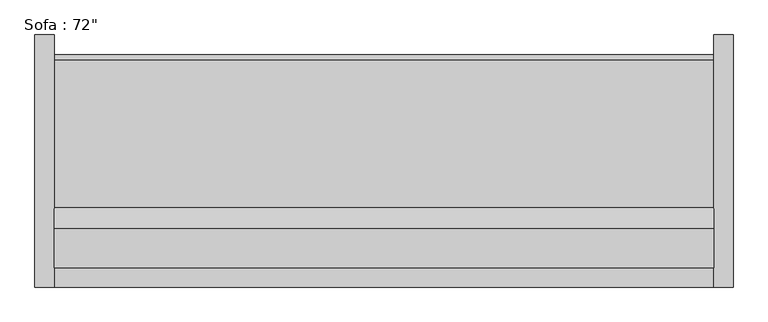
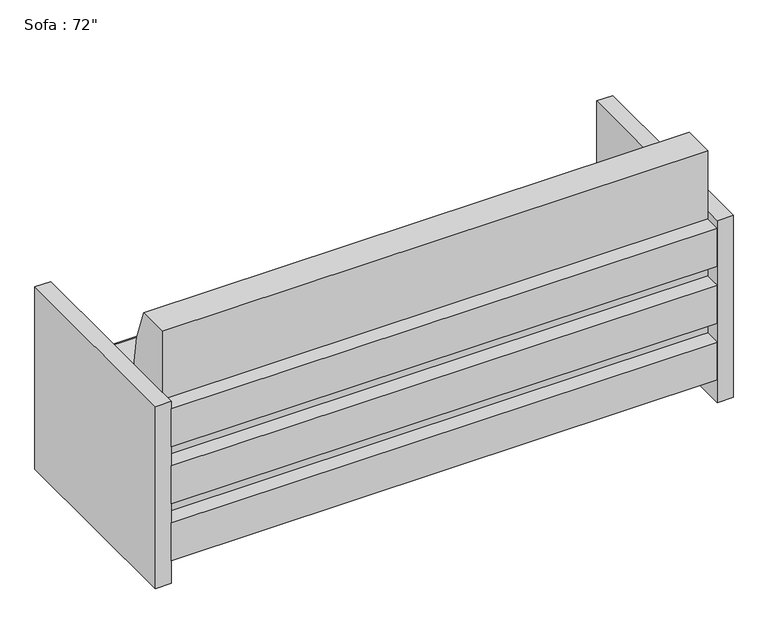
"""IFC4 building model written with IfcOpenShell, lengths in millimetres: furniture geometry."""

from ifc_helpers import new_model, si_unit, point, frame, frame_2d, origin, origin_with_axes, place, context, project, spatial, polyline, circle_curve, trimmed, segment, composite_curve, outline, extrude, source, transform, mapped, element, save


def furniture_dde8a40a(model_context):
    return source(origin(), model_context, "Body", "SweptSolid", [
        extrude(outline(polyline([(-793.2295082, -425.5540984), (933.9704918, -425.5540984), (933.9704918, -476.3540984), (-793.2295082, -476.3540984), (-793.2295082, -425.5540984)])), frame((0.0, 0.0, 457.2), z_axis=(0.0, 0.0, 1.0), x_axis=(1.0, 0.0, 0.0)), (0.0, 0.0, 1.0), 127.0),
        extrude(outline(polyline([(-793.2295082, -425.5540984), (933.9704918, -425.5540984), (933.9704918, -476.3540984), (-793.2295082, -476.3540984), (-793.2295082, -425.5540984)])), frame((0.0, 0.0, 266.7), z_axis=(0.0, 0.0, 1.0), x_axis=(1.0, 0.0, 0.0)), (0.0, 0.0, 1.0), 127.0),
        extrude(outline(polyline([(-793.2295082, -425.5540984), (933.9704918, -425.5540984), (933.9704918, -476.3540984), (-793.2295082, -476.3540984), (-793.2295082, -425.5540984)])), frame((0.0, 0.0, 76.2), z_axis=(0.0, 0.0, 1.0), x_axis=(1.0, 0.0, 0.0)), (0.0, 0.0, 1.0), 127.0),
        extrude(outline(composite_curve([segment(polyline([(-286.1764935, 381.0), (119.3862837, 381.0)]), True, "CONTINUOUS"), segment(trimmed(circle_curve(frame_2d((119.3862837, 368.3)), 12.7), [point((119.3862837, 381.0))], [point((132.0379563, 367.1931221))], False, "CARTESIAN"), True, "CONTINUOUS"), segment(polyline([(132.0379563, 367.1931221), (111.108343, 127.9665467), (-425.5540984, 127.9665467), (-425.5540984, 812.8), (-323.9540984, 812.8)]), True, "CONTINUOUS"), segment(trimmed(circle_curve(frame_2d((-926.517198, 542.5300036)), 660.4), [point((-323.9540984, 812.8))], [point((-286.1764935, 381.0))], False, "CARTESIAN"), True, "CONTINUOUS")], self_intersect=False)), frame((-793.2295082, 0.0, 0.0), z_axis=(1.0, 0.0, 0.0), x_axis=(0.0, 1.0, 0.0)), (0.0, 0.0, 1.0), 1727.2),
        extrude(outline(polyline([(-793.2295082, -476.3540984), (-844.0295082, -476.3540984), (-844.0295082, 184.0459016), (-793.2295082, 184.0459016), (-793.2295082, -476.3540984)])), origin_with_axes(), (0.0, 0.0, 1.0), 609.6),
        extrude(outline(polyline([(984.7704918, -476.3540984), (933.9704918, -476.3540984), (933.9704918, 184.0459016), (984.7704918, 184.0459016), (984.7704918, -476.3540984)])), origin_with_axes(), (0.0, 0.0, 1.0), 609.6),
    ])


if __name__ == "__main__":
    model = new_model("IFC4")
    model_context = context("Model", 3, world=origin())
    ifc_project = project(units=[si_unit("LENGTHUNIT", "METRE", prefix="MILLI")], contexts=[model_context])
    site = spatial("IfcSite", under=ifc_project)
    building = spatial("IfcBuilding", under=site)
    placement = place(None, origin())
    furniture_shape = furniture_dde8a40a(model_context)
    element("IfcFurniture", 1, ObjectType="Sofa : 72\"", at=placement, inside=building, context=model_context, shape_type="MappedRepresentation", body=[
        mapped(furniture_shape, transform((0.0, 0.0, 0.0), x_axis=(1.0, 0.0, 0.0), y_axis=(0.0, 1.0, 0.0), z_axis=(0.0, 0.0, 1.0))),
    ])
    save(model, "model.ifc")
